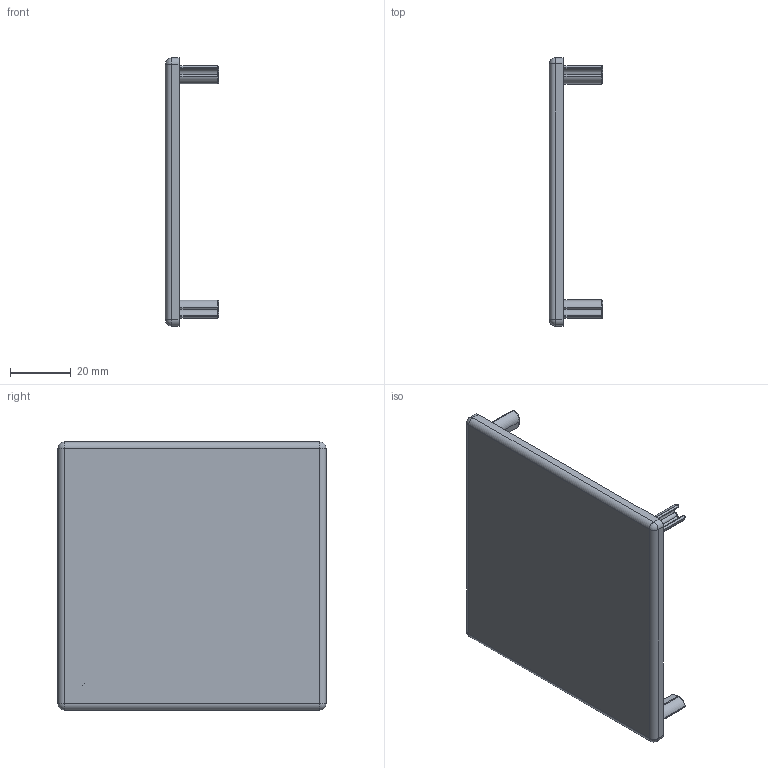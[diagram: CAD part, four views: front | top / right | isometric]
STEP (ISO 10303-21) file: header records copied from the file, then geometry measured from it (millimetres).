
FILE_DESCRIPTION (( 'STEP AP214' ), '1' );
FILE_NAME ('FBEC 88.step', '2017-04-05T08:01:05', ( '' ), ( '' ), 'SwSTEP 2.0', 'SolidWorks 2015', '' );
FILE_SCHEMA (( 'AUTOMOTIVE_DESIGN' ));
Length unit declared in the file: millimetre
Products named in the file (1): FBEC 88
Bounding box: 17.5 x 88 x 88 mm (x, y, z)
Volume: 18277.1 mm3; surface area: 19169.7 mm2
Topology: 1 solids, 1 shells, 197 faces, 468 edges, 262 vertices
Faces by surface type: cylinder 76, torus 66, plane 31, sphere 24
Entity records: 5652 total; most frequent: DIRECTION 1092, CARTESIAN_POINT 1062, ORIENTED_EDGE 896, AXIS2_PLACEMENT_3D 472, EDGE_CURVE 448, CIRCLE 274, VERTEX_POINT 258, EDGE_LOOP 202
